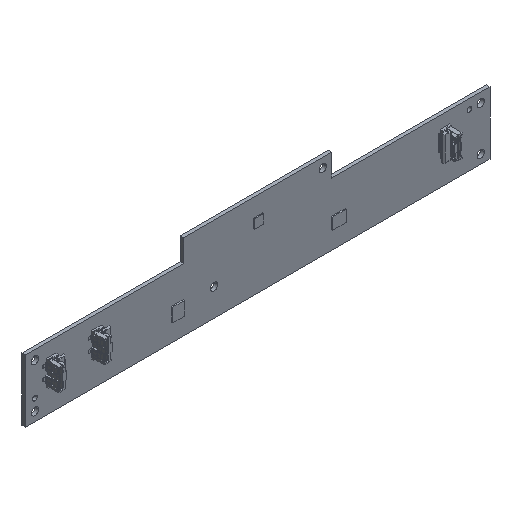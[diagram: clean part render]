
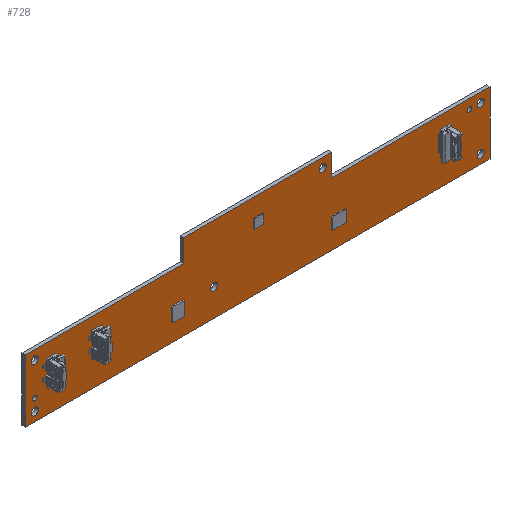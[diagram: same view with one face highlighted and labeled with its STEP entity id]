
A CAD part, isometric view. The second image highlights one B-rep face of the part: STEP entity #728.
In plain terms, the highlighted planar face has unit normal (0, -1, 0).
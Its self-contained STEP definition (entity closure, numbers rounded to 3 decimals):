
#24=DIRECTION('',(0.,0.,1.));
#25=VECTOR('',#24,27.25);
#26=CARTESIAN_POINT('',(-101.,0.,-27.25));
#27=LINE('',#26,#25);
#32=DIRECTION('',(1.,0.,0.));
#33=VECTOR('',#32,68.75);
#34=CARTESIAN_POINT('',(-101.,0.,0.));
#35=LINE('',#34,#33);
#39=DIRECTION('',(0.,0.,1.));
#40=VECTOR('',#39,9.75);
#41=CARTESIAN_POINT('',(-32.25,0.,0.));
#42=LINE('',#41,#40);
#46=DIRECTION('',(1.,0.,0.));
#47=VECTOR('',#46,64.5);
#48=CARTESIAN_POINT('',(-32.25,0.,9.75));
#49=LINE('',#48,#47);
#53=DIRECTION('',(0.,0.,-1.));
#54=VECTOR('',#53,9.75);
#55=CARTESIAN_POINT('',(32.25,0.,9.75));
#56=LINE('',#55,#54);
#60=DIRECTION('',(1.,0.,0.));
#61=VECTOR('',#60,68.75);
#62=CARTESIAN_POINT('',(32.25,0.,0.));
#63=LINE('',#62,#61);
#67=DIRECTION('',(0.,0.,-1.));
#68=VECTOR('',#67,27.25);
#69=CARTESIAN_POINT('',(101.,0.,0.));
#70=LINE('',#69,#68);
#74=DIRECTION('',(-1.,0.,0.));
#75=VECTOR('',#74,202.);
#76=CARTESIAN_POINT('',(101.,0.,-27.25));
#77=LINE('',#76,#75);
#81=CARTESIAN_POINT('',(97.,0.,-23.25));
#82=DIRECTION('',(0.,1.,0.));
#83=DIRECTION('',(1.,0.,0.));
#84=AXIS2_PLACEMENT_3D('',#81,#82,#83);
#89=CARTESIAN_POINT('',(97.,0.,-23.25));
#90=DIRECTION('',(0.,1.,0.));
#91=DIRECTION('',(-1.,0.,0.));
#92=AXIS2_PLACEMENT_3D('',#89,#90,#91);
#97=CARTESIAN_POINT('',(-97.,0.,-23.25));
#98=DIRECTION('',(0.,1.,0.));
#99=DIRECTION('',(1.,0.,0.));
#100=AXIS2_PLACEMENT_3D('',#97,#98,#99);
#105=CARTESIAN_POINT('',(-97.,0.,-23.25));
#106=DIRECTION('',(0.,1.,0.));
#107=DIRECTION('',(-1.,0.,0.));
#108=AXIS2_PLACEMENT_3D('',#105,#106,#107);
#113=CARTESIAN_POINT('',(-19.,0.,-15.25));
#114=DIRECTION('',(0.,1.,0.));
#115=DIRECTION('',(1.,0.,0.));
#116=AXIS2_PLACEMENT_3D('',#113,#114,#115);
#121=CARTESIAN_POINT('',(-19.,0.,-15.25));
#122=DIRECTION('',(0.,1.,0.));
#123=DIRECTION('',(-1.,0.,0.));
#124=AXIS2_PLACEMENT_3D('',#121,#122,#123);
#129=CARTESIAN_POINT('',(28.25,0.,5.75));
#130=DIRECTION('',(0.,1.,0.));
#131=DIRECTION('',(1.,0.,0.));
#132=AXIS2_PLACEMENT_3D('',#129,#130,#131);
#137=CARTESIAN_POINT('',(28.25,0.,5.75));
#138=DIRECTION('',(0.,1.,0.));
#139=DIRECTION('',(-1.,0.,0.));
#140=AXIS2_PLACEMENT_3D('',#137,#138,#139);
#145=CARTESIAN_POINT('',(-97.,0.,-4.));
#146=DIRECTION('',(0.,1.,0.));
#147=DIRECTION('',(1.,0.,0.));
#148=AXIS2_PLACEMENT_3D('',#145,#146,#147);
#153=CARTESIAN_POINT('',(-97.,0.,-4.));
#154=DIRECTION('',(0.,1.,0.));
#155=DIRECTION('',(-1.,0.,0.));
#156=AXIS2_PLACEMENT_3D('',#153,#154,#155);
#161=CARTESIAN_POINT('',(97.,0.,-4.));
#162=DIRECTION('',(0.,1.,0.));
#163=DIRECTION('',(1.,0.,0.));
#164=AXIS2_PLACEMENT_3D('',#161,#162,#163);
#169=CARTESIAN_POINT('',(97.,0.,-4.));
#170=DIRECTION('',(0.,1.,0.));
#171=DIRECTION('',(-1.,0.,0.));
#172=AXIS2_PLACEMENT_3D('',#169,#170,#171);
#177=CARTESIAN_POINT('',(-97.,0.,-18.25));
#178=DIRECTION('',(0.,1.,0.));
#179=DIRECTION('',(1.,0.,0.));
#180=AXIS2_PLACEMENT_3D('',#177,#178,#179);
#185=CARTESIAN_POINT('',(-97.,0.,-18.25));
#186=DIRECTION('',(0.,1.,0.));
#187=DIRECTION('',(-1.,0.,0.));
#188=AXIS2_PLACEMENT_3D('',#185,#186,#187);
#193=CARTESIAN_POINT('',(92.,0.,-4.));
#194=DIRECTION('',(0.,1.,0.));
#195=DIRECTION('',(1.,0.,0.));
#196=AXIS2_PLACEMENT_3D('',#193,#194,#195);
#201=CARTESIAN_POINT('',(92.,0.,-4.));
#202=DIRECTION('',(0.,1.,0.));
#203=DIRECTION('',(-1.,0.,0.));
#204=AXIS2_PLACEMENT_3D('',#201,#202,#203);
#561=CARTESIAN_POINT('',(-101.,0.,-27.25));
#562=CARTESIAN_POINT('',(-101.,0.,0.));
#563=VERTEX_POINT('',#561);
#564=VERTEX_POINT('',#562);
#565=CARTESIAN_POINT('',(-32.25,0.,9.75));
#566=CARTESIAN_POINT('',(32.25,0.,9.75));
#567=VERTEX_POINT('',#565);
#568=VERTEX_POINT('',#566);
#569=CARTESIAN_POINT('',(101.,0.,0.));
#570=CARTESIAN_POINT('',(101.,0.,-27.25));
#571=VERTEX_POINT('',#569);
#572=VERTEX_POINT('',#570);
#585=CARTESIAN_POINT('',(98.6,0.,-23.25));
#586=CARTESIAN_POINT('',(95.4,0.,-23.25));
#587=VERTEX_POINT('',#585);
#588=VERTEX_POINT('',#586);
#589=CARTESIAN_POINT('',(-95.4,0.,-23.25));
#590=CARTESIAN_POINT('',(-98.6,0.,-23.25));
#591=VERTEX_POINT('',#589);
#592=VERTEX_POINT('',#590);
#601=CARTESIAN_POINT('',(-32.25,0.,0.));
#602=VERTEX_POINT('',#601);
#603=CARTESIAN_POINT('',(32.25,0.,0.));
#604=VERTEX_POINT('',#603);
#609=CARTESIAN_POINT('',(-17.4,0.,-15.25));
#610=CARTESIAN_POINT('',(-20.6,0.,-15.25));
#611=VERTEX_POINT('',#609);
#612=VERTEX_POINT('',#610);
#613=CARTESIAN_POINT('',(29.85,0.,5.75));
#614=CARTESIAN_POINT('',(26.65,0.,5.75));
#615=VERTEX_POINT('',#613);
#616=VERTEX_POINT('',#614);
#625=CARTESIAN_POINT('',(-95.4,0.,-4.));
#626=CARTESIAN_POINT('',(-98.6,0.,-4.));
#627=VERTEX_POINT('',#625);
#628=VERTEX_POINT('',#626);
#629=CARTESIAN_POINT('',(98.6,0.,-4.));
#630=CARTESIAN_POINT('',(95.4,0.,-4.));
#631=VERTEX_POINT('',#629);
#632=VERTEX_POINT('',#630);
#633=CARTESIAN_POINT('',(-96.,0.,-18.25));
#634=CARTESIAN_POINT('',(-98.,0.,-18.25));
#635=VERTEX_POINT('',#633);
#636=VERTEX_POINT('',#634);
#637=CARTESIAN_POINT('',(93.,0.,-4.));
#638=CARTESIAN_POINT('',(91.,0.,-4.));
#639=VERTEX_POINT('',#637);
#640=VERTEX_POINT('',#638);
#657=CARTESIAN_POINT('',(0.,0.,0.));
#658=DIRECTION('',(0.,1.,0.));
#659=DIRECTION('',(1.,0.,0.));
#660=AXIS2_PLACEMENT_3D('',#657,#658,#659);
#661=PLANE('',#660);
#663=ORIENTED_EDGE('',*,*,#662,.T.);
#665=ORIENTED_EDGE('',*,*,#664,.T.);
#667=ORIENTED_EDGE('',*,*,#666,.T.);
#669=ORIENTED_EDGE('',*,*,#668,.T.);
#671=ORIENTED_EDGE('',*,*,#670,.T.);
#673=ORIENTED_EDGE('',*,*,#672,.T.);
#675=ORIENTED_EDGE('',*,*,#674,.T.);
#677=ORIENTED_EDGE('',*,*,#676,.T.);
#678=EDGE_LOOP('',(#663,#665,#667,#669,#671,#673,#675,#677));
#679=FACE_OUTER_BOUND('',#678,.F.);
#681=ORIENTED_EDGE('',*,*,#680,.F.);
#683=ORIENTED_EDGE('',*,*,#682,.F.);
#684=EDGE_LOOP('',(#681,#683));
#685=FACE_BOUND('',#684,.F.);
#687=ORIENTED_EDGE('',*,*,#686,.F.);
#689=ORIENTED_EDGE('',*,*,#688,.F.);
#690=EDGE_LOOP('',(#687,#689));
#691=FACE_BOUND('',#690,.F.);
#693=ORIENTED_EDGE('',*,*,#692,.F.);
#695=ORIENTED_EDGE('',*,*,#694,.F.);
#696=EDGE_LOOP('',(#693,#695));
#697=FACE_BOUND('',#696,.F.);
#699=ORIENTED_EDGE('',*,*,#698,.F.);
#701=ORIENTED_EDGE('',*,*,#700,.F.);
#702=EDGE_LOOP('',(#699,#701));
#703=FACE_BOUND('',#702,.F.);
#705=ORIENTED_EDGE('',*,*,#704,.F.);
#707=ORIENTED_EDGE('',*,*,#706,.F.);
#708=EDGE_LOOP('',(#705,#707));
#709=FACE_BOUND('',#708,.F.);
#711=ORIENTED_EDGE('',*,*,#710,.F.);
#713=ORIENTED_EDGE('',*,*,#712,.F.);
#714=EDGE_LOOP('',(#711,#713));
#715=FACE_BOUND('',#714,.F.);
#717=ORIENTED_EDGE('',*,*,#716,.F.);
#719=ORIENTED_EDGE('',*,*,#718,.F.);
#720=EDGE_LOOP('',(#717,#719));
#721=FACE_BOUND('',#720,.F.);
#723=ORIENTED_EDGE('',*,*,#722,.F.);
#725=ORIENTED_EDGE('',*,*,#724,.F.);
#726=EDGE_LOOP('',(#723,#725));
#727=FACE_BOUND('',#726,.F.);
#85=CIRCLE('',#84,1.6);
#93=CIRCLE('',#92,1.6);
#101=CIRCLE('',#100,1.6);
#109=CIRCLE('',#108,1.6);
#117=CIRCLE('',#116,1.6);
#125=CIRCLE('',#124,1.6);
#133=CIRCLE('',#132,1.6);
#141=CIRCLE('',#140,1.6);
#149=CIRCLE('',#148,1.6);
#157=CIRCLE('',#156,1.6);
#165=CIRCLE('',#164,1.6);
#173=CIRCLE('',#172,1.6);
#181=CIRCLE('',#180,1.);
#189=CIRCLE('',#188,1.);
#197=CIRCLE('',#196,1.);
#205=CIRCLE('',#204,1.);
#662=EDGE_CURVE('',#563,#564,#27,.T.);
#664=EDGE_CURVE('',#564,#602,#35,.T.);
#666=EDGE_CURVE('',#602,#567,#42,.T.);
#668=EDGE_CURVE('',#567,#568,#49,.T.);
#670=EDGE_CURVE('',#568,#604,#56,.T.);
#672=EDGE_CURVE('',#604,#571,#63,.T.);
#674=EDGE_CURVE('',#571,#572,#70,.T.);
#676=EDGE_CURVE('',#572,#563,#77,.T.);
#680=EDGE_CURVE('',#587,#588,#85,.T.);
#682=EDGE_CURVE('',#588,#587,#93,.T.);
#686=EDGE_CURVE('',#591,#592,#101,.T.);
#688=EDGE_CURVE('',#592,#591,#109,.T.);
#692=EDGE_CURVE('',#611,#612,#117,.T.);
#694=EDGE_CURVE('',#612,#611,#125,.T.);
#698=EDGE_CURVE('',#615,#616,#133,.T.);
#700=EDGE_CURVE('',#616,#615,#141,.T.);
#704=EDGE_CURVE('',#627,#628,#149,.T.);
#706=EDGE_CURVE('',#628,#627,#157,.T.);
#710=EDGE_CURVE('',#631,#632,#165,.T.);
#712=EDGE_CURVE('',#632,#631,#173,.T.);
#716=EDGE_CURVE('',#635,#636,#181,.T.);
#718=EDGE_CURVE('',#636,#635,#189,.T.);
#722=EDGE_CURVE('',#639,#640,#197,.T.);
#724=EDGE_CURVE('',#640,#639,#205,.T.);
#728=ADVANCED_FACE('',(#679,#685,#691,#697,#703,#709,#715,#721,#727),#661,.F.);
